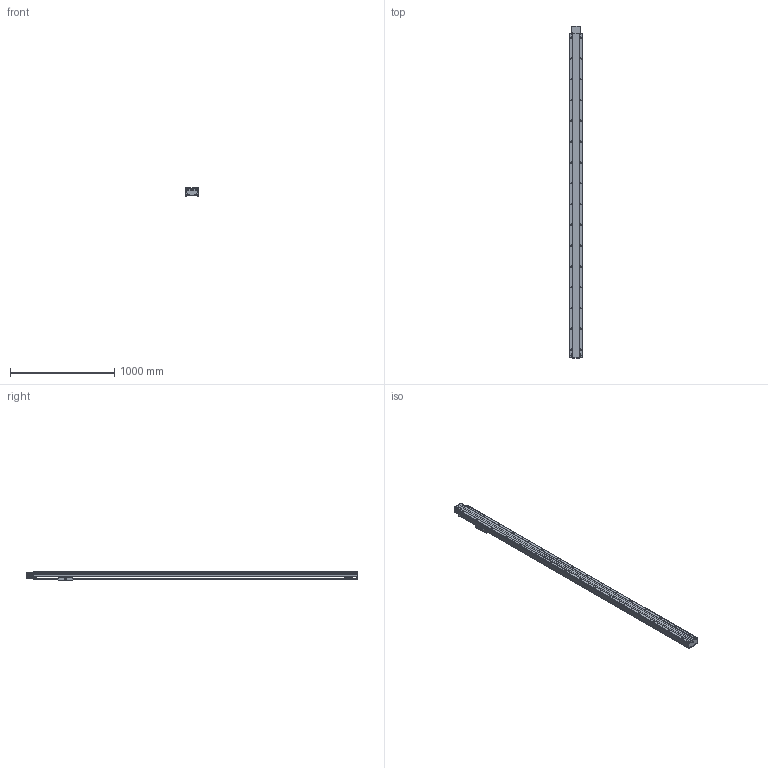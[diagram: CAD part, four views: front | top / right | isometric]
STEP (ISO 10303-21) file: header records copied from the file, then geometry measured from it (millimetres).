
FILE_DESCRIPTION(/* description */ (''),/* implementation_level */ '2;1');
FILE_NAME(/* name */ 'TKB120-FL-2800_asm1_stp_stp.stp',/* time_stamp */ '2016-06-28T15:51:05+08:00',/* author */ (''),/* organization */ (''),/* preprocessor_version */ 'ST-DEVELOPER v15',/* originating_system */ 'SIEMENS PLM Software NX 8.5',/* authorisation */ '');
FILE_SCHEMA (('AUTOMOTIVE_DESIGN { 1 0 10303 214 3 1 1 1 }'));
Length unit declared in the file: millimetre
Products named in the file (3): 200-2; 200-1; TKB120-FL-2800_asm1_stp_stp
Assembly tree (2 placements, depth 2):
  TKB120-FL-2800_asm1_stp_stp
    200-1
    200-2
Bounding box: 134 x 3191 x 80 mm (x, y, z)
Volume: 7546748 mm3; surface area: 3174384.7 mm2
Topology: 2 solids, 3 shells, 943 faces, 2837 edges, 1873 vertices
Faces by surface type: cylinder 483, plane 418, cone 42
Full cylindrical faces by diameter (mm): 2.5 x4, 3.3 x20, 4.2 x4, 4.5 x24, 5 x44, 5.5 x34, 6.6 x6, 6.8 x4, 7.5 x4, 8 x12, 9 x6, 9.75 x68, 10.5 x4, 11 x2, 12 x4, 14 x2, 17 x2, 35 x2, 40 x3, 50 x2, 52 x1
Entity records: 31552 total; most frequent: CARTESIAN_POINT 7113, DIRECTION 5083, ORIENTED_EDGE 4732, EDGE_CURVE 2366, AXIS2_PLACEMENT_3D 1958, VERTEX_POINT 1738, EDGE_LOOP 1494, LINE 1167
